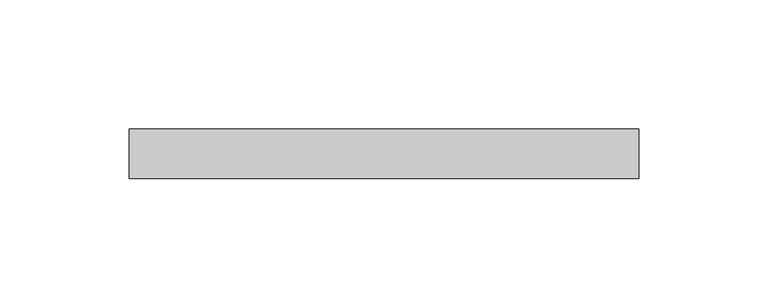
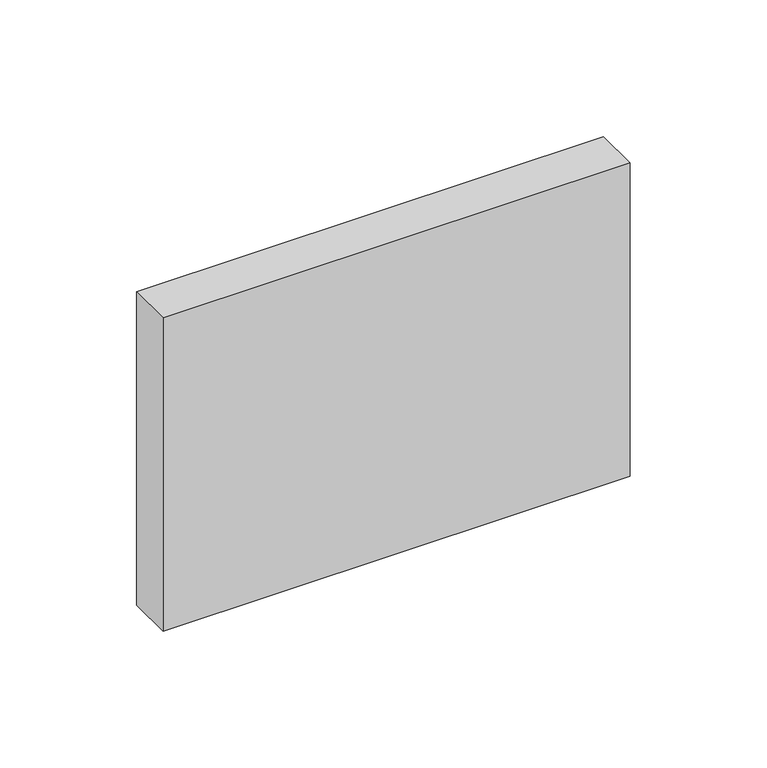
"""IFC4 building model written with IfcOpenShell, lengths in millimetres: proxy geometry, GRADIENT^TABLE 2_RADIUS BASE-POWER LID."""

from ifc_helpers import new_model, si_unit, frame, origin, place, context, project, spatial, polyline, outline, extrude, source, transform, mapped, element, save


def generic_models_9387e01b(model_context):
    return source(origin(), model_context, "Body", "SweptSolid", [
        extrude(outline(polyline([(196.85, 0.0), (0.0, 0.0), (0.0, 19.05), (196.85, 19.05), (196.85, 0.0)])), frame((0.0, 0.0, -139.7), z_axis=(0.0, 0.0, 1.0), x_axis=(1.0, 0.0, 0.0)), (0.0, 0.0, 1.0), 139.7),
    ])


if __name__ == "__main__":
    model = new_model("IFC4")
    model_context = context("Model", 3, world=origin())
    ifc_project = project(units=[si_unit("LENGTHUNIT", "METRE", prefix="MILLI")], contexts=[model_context])
    site = spatial("IfcSite", under=ifc_project)
    building = spatial("IfcBuilding", under=site)
    placement = place(None, origin())
    generic_models_shape = generic_models_9387e01b(model_context)
    element("IfcBuildingElementProxy", 1, Name="GRADIENT^TABLE 2_RADIUS BASE-POWER LID", ObjectType="GRADIENT^TABLE 2_RADIUS BASE-POWER LID", at=placement, inside=building, context=model_context, shape_type="MappedRepresentation", body=[
        mapped(generic_models_shape, transform((0.0, 0.0, 0.0), x_axis=(1.0, 0.0, 0.0), y_axis=(0.0, 1.0, 0.0), z_axis=(0.0, 0.0, 1.0))),
    ])
    save(model, "model.ifc")
